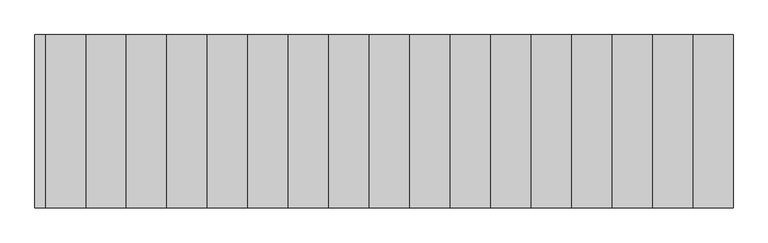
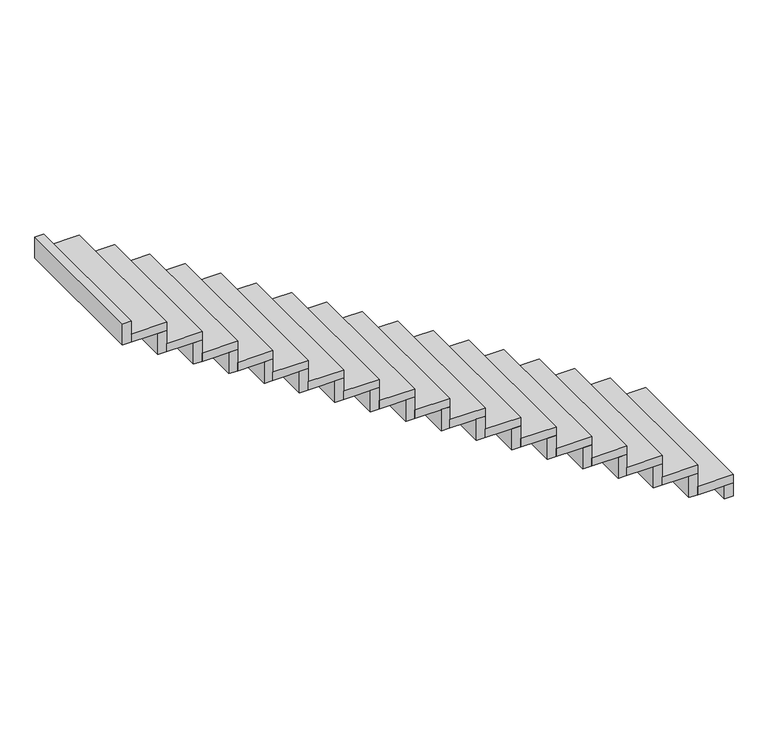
"""IFC4 building model written with IfcOpenShell, lengths in millimetres: stair flight geometry, PLISSADA 7CM."""

from ifc_helpers import new_model, si_unit, frame, origin, place, context, project, spatial, polyline, outline, extrude, source, transform, mapped, element, save


def stair_flight_5e0610f6(model_context):
    return source(origin(), model_context, "Body", "SweptSolid", [
        extrude(outline(polyline([(1348.4881645, 7546.0881727), (1418.4881645, 7546.0881727), (1418.4881645, 6346.0881727), (1348.4881645, 6346.0881727), (1348.4881645, 7546.0881727)])), frame((0.0, 0.0, 500.0), z_axis=(0.0, 0.0, 1.0), x_axis=(1.0, 0.0, 0.0)), (0.0, 0.0, 1.0), 107.7777778),
        extrude(outline(polyline([(1138.4881645, 6346.0881727), (1138.4881645, 7546.0881727), (1418.4881645, 7546.0881727), (1418.4881645, 6346.0881727), (1138.4881645, 6346.0881727)])), frame((0.0, 0.0, 607.7777778), z_axis=(0.0, 0.0, 1.0), x_axis=(1.0, 0.0, 0.0)), (0.0, 0.0, 1.0), 70.0),
        extrude(outline(polyline([(1068.4881645, 7546.0881727), (1138.4881645, 7546.0881727), (1138.4881645, 6346.0881727), (1068.4881645, 6346.0881727), (1068.4881645, 7546.0881727)])), frame((0.0, 0.0, 607.7777778), z_axis=(0.0, 0.0, 1.0), x_axis=(1.0, 0.0, 0.0)), (0.0, 0.0, 1.0), 177.7777778),
        extrude(outline(polyline([(858.4881645, 6346.0881727), (858.4881645, 7546.0881727), (1138.4881645, 7546.0881727), (1138.4881645, 6346.0881727), (858.4881645, 6346.0881727)])), frame((0.0, 0.0, 785.5555556), z_axis=(0.0, 0.0, 1.0), x_axis=(1.0, 0.0, 0.0)), (0.0, 0.0, 1.0), 70.0),
        extrude(outline(polyline([(788.4881645, 7546.0881727), (858.4881645, 7546.0881727), (858.4881645, 6346.0881727), (788.4881645, 6346.0881727), (788.4881645, 7546.0881727)])), frame((0.0, 0.0, 785.5555556), z_axis=(0.0, 0.0, 1.0), x_axis=(1.0, 0.0, 0.0)), (0.0, 0.0, 1.0), 177.7777778),
        extrude(outline(polyline([(578.4881645, 6346.0881727), (578.4881645, 7546.0881727), (858.4881645, 7546.0881727), (858.4881645, 6346.0881727), (578.4881645, 6346.0881727)])), frame((0.0, 0.0, 963.3333333), z_axis=(0.0, 0.0, 1.0), x_axis=(1.0, 0.0, 0.0)), (0.0, 0.0, 1.0), 70.0),
        extrude(outline(polyline([(508.4881645, 7546.0881727), (578.4881645, 7546.0881727), (578.4881645, 6346.0881727), (508.4881645, 6346.0881727), (508.4881645, 7546.0881727)])), frame((0.0, 0.0, 963.3333333), z_axis=(0.0, 0.0, 1.0), x_axis=(1.0, 0.0, 0.0)), (0.0, 0.0, 1.0), 177.7777778),
        extrude(outline(polyline([(298.4881645, 6346.0881727), (298.4881645, 7546.0881727), (578.4881645, 7546.0881727), (578.4881645, 6346.0881727), (298.4881645, 6346.0881727)])), frame((0.0, 0.0, 1141.1111111), z_axis=(0.0, 0.0, 1.0), x_axis=(1.0, 0.0, 0.0)), (0.0, 0.0, 1.0), 70.0),
        extrude(outline(polyline([(228.4881645, 7546.0881727), (298.4881645, 7546.0881727), (298.4881645, 6346.0881727), (228.4881645, 6346.0881727), (228.4881645, 7546.0881727)])), frame((0.0, 0.0, 1141.1111111), z_axis=(0.0, 0.0, 1.0), x_axis=(1.0, 0.0, 0.0)), (0.0, 0.0, 1.0), 177.7777778),
        extrude(outline(polyline([(18.4881645, 6346.0881727), (18.4881645, 7546.0881727), (298.4881645, 7546.0881727), (298.4881645, 6346.0881727), (18.4881645, 6346.0881727)])), frame((0.0, 0.0, 1318.8888889), z_axis=(0.0, 0.0, 1.0), x_axis=(1.0, 0.0, 0.0)), (0.0, 0.0, 1.0), 70.0),
        extrude(outline(polyline([(-51.5118355, 7546.0881727), (18.4881645, 7546.0881727), (18.4881645, 6346.0881727), (-51.5118355, 6346.0881727), (-51.5118355, 7546.0881727)])), frame((0.0, 0.0, 1318.8888889), z_axis=(0.0, 0.0, 1.0), x_axis=(1.0, 0.0, 0.0)), (0.0, 0.0, 1.0), 177.7777778),
        extrude(outline(polyline([(-261.5118355, 6346.0881727), (-261.5118355, 7546.0881727), (18.4881645, 7546.0881727), (18.4881645, 6346.0881727), (-261.5118355, 6346.0881727)])), frame((0.0, 0.0, 1496.6666667), z_axis=(0.0, 0.0, 1.0), x_axis=(1.0, 0.0, 0.0)), (0.0, 0.0, 1.0), 70.0),
        extrude(outline(polyline([(-331.5118355, 7546.0881727), (-261.5118355, 7546.0881727), (-261.5118355, 6346.0881727), (-331.5118355, 6346.0881727), (-331.5118355, 7546.0881727)])), frame((0.0, 0.0, 1496.6666667), z_axis=(0.0, 0.0, 1.0), x_axis=(1.0, 0.0, 0.0)), (0.0, 0.0, 1.0), 177.7777778),
        extrude(outline(polyline([(-541.5118355, 6346.0881727), (-541.5118355, 7546.0881727), (-261.5118355, 7546.0881727), (-261.5118355, 6346.0881727), (-541.5118355, 6346.0881727)])), frame((0.0, 0.0, 1674.4444444), z_axis=(0.0, 0.0, 1.0), x_axis=(1.0, 0.0, 0.0)), (0.0, 0.0, 1.0), 70.0),
        extrude(outline(polyline([(-611.5118355, 7546.0881727), (-541.5118355, 7546.0881727), (-541.5118355, 6346.0881727), (-611.5118355, 6346.0881727), (-611.5118355, 7546.0881727)])), frame((0.0, 0.0, 1674.4444444), z_axis=(0.0, 0.0, 1.0), x_axis=(1.0, 0.0, 0.0)), (0.0, 0.0, 1.0), 177.7777778),
        extrude(outline(polyline([(-821.5118355, 6346.0881727), (-821.5118355, 7546.0881727), (-541.5118355, 7546.0881727), (-541.5118355, 6346.0881727), (-821.5118355, 6346.0881727)])), frame((0.0, 0.0, 1852.2222222), z_axis=(0.0, 0.0, 1.0), x_axis=(1.0, 0.0, 0.0)), (0.0, 0.0, 1.0), 70.0),
        extrude(outline(polyline([(-891.5118355, 7546.0881727), (-821.5118355, 7546.0881727), (-821.5118355, 6346.0881727), (-891.5118355, 6346.0881727), (-891.5118355, 7546.0881727)])), frame((0.0, 0.0, 1852.2222222), z_axis=(0.0, 0.0, 1.0), x_axis=(1.0, 0.0, 0.0)), (0.0, 0.0, 1.0), 177.7777778),
        extrude(outline(polyline([(-1101.5118355, 6346.0881727), (-1101.5118355, 7546.0881727), (-821.5118355, 7546.0881727), (-821.5118355, 6346.0881727), (-1101.5118355, 6346.0881727)])), frame((0.0, 0.0, 2030.0), z_axis=(0.0, 0.0, 1.0), x_axis=(1.0, 0.0, 0.0)), (0.0, 0.0, 1.0), 70.0),
        extrude(outline(polyline([(-1171.5118355, 7546.0881727), (-1101.5118355, 7546.0881727), (-1101.5118355, 6346.0881727), (-1171.5118355, 6346.0881727), (-1171.5118355, 7546.0881727)])), frame((0.0, 0.0, 2030.0), z_axis=(0.0, 0.0, 1.0), x_axis=(1.0, 0.0, 0.0)), (0.0, 0.0, 1.0), 177.7777778),
        extrude(outline(polyline([(-1381.5118355, 6346.0881727), (-1381.5118355, 7546.0881727), (-1101.5118355, 7546.0881727), (-1101.5118355, 6346.0881727), (-1381.5118355, 6346.0881727)])), frame((0.0, 0.0, 2207.7777778), z_axis=(0.0, 0.0, 1.0), x_axis=(1.0, 0.0, 0.0)), (0.0, 0.0, 1.0), 70.0),
        extrude(outline(polyline([(-1451.5118355, 7546.0881727), (-1381.5118355, 7546.0881727), (-1381.5118355, 6346.0881727), (-1451.5118355, 6346.0881727), (-1451.5118355, 7546.0881727)])), frame((0.0, 0.0, 2207.7777778), z_axis=(0.0, 0.0, 1.0), x_axis=(1.0, 0.0, 0.0)), (0.0, 0.0, 1.0), 177.7777778),
        extrude(outline(polyline([(-1661.5118355, 6346.0881727), (-1661.5118355, 7546.0881727), (-1381.5118355, 7546.0881727), (-1381.5118355, 6346.0881727), (-1661.5118355, 6346.0881727)])), frame((0.0, 0.0, 2385.5555556), z_axis=(0.0, 0.0, 1.0), x_axis=(1.0, 0.0, 0.0)), (0.0, 0.0, 1.0), 70.0),
        extrude(outline(polyline([(-1731.5118355, 7546.0881727), (-1661.5118355, 7546.0881727), (-1661.5118355, 6346.0881727), (-1731.5118355, 6346.0881727), (-1731.5118355, 7546.0881727)])), frame((0.0, 0.0, 2385.5555556), z_axis=(0.0, 0.0, 1.0), x_axis=(1.0, 0.0, 0.0)), (0.0, 0.0, 1.0), 177.7777778),
        extrude(outline(polyline([(-1941.5118355, 6346.0881727), (-1941.5118355, 7546.0881727), (-1661.5118355, 7546.0881727), (-1661.5118355, 6346.0881727), (-1941.5118355, 6346.0881727)])), frame((0.0, 0.0, 2563.3333333), z_axis=(0.0, 0.0, 1.0), x_axis=(1.0, 0.0, 0.0)), (0.0, 0.0, 1.0), 70.0),
        extrude(outline(polyline([(-2011.5118355, 7546.0881727), (-1941.5118355, 7546.0881727), (-1941.5118355, 6346.0881727), (-2011.5118355, 6346.0881727), (-2011.5118355, 7546.0881727)])), frame((0.0, 0.0, 2563.3333333), z_axis=(0.0, 0.0, 1.0), x_axis=(1.0, 0.0, 0.0)), (0.0, 0.0, 1.0), 177.7777778),
        extrude(outline(polyline([(-2221.5118355, 6346.0881727), (-2221.5118355, 7546.0881727), (-1941.5118355, 7546.0881727), (-1941.5118355, 6346.0881727), (-2221.5118355, 6346.0881727)])), frame((0.0, 0.0, 2741.1111111), z_axis=(0.0, 0.0, 1.0), x_axis=(1.0, 0.0, 0.0)), (0.0, 0.0, 1.0), 70.0),
        extrude(outline(polyline([(-2291.5118355, 7546.0881727), (-2221.5118355, 7546.0881727), (-2221.5118355, 6346.0881727), (-2291.5118355, 6346.0881727), (-2291.5118355, 7546.0881727)])), frame((0.0, 0.0, 2741.1111111), z_axis=(0.0, 0.0, 1.0), x_axis=(1.0, 0.0, 0.0)), (0.0, 0.0, 1.0), 177.7777778),
        extrude(outline(polyline([(-2501.5118355, 6346.0881727), (-2501.5118355, 7546.0881727), (-2221.5118355, 7546.0881727), (-2221.5118355, 6346.0881727), (-2501.5118355, 6346.0881727)])), frame((0.0, 0.0, 2918.8888889), z_axis=(0.0, 0.0, 1.0), x_axis=(1.0, 0.0, 0.0)), (0.0, 0.0, 1.0), 70.0),
        extrude(outline(polyline([(-2571.5118355, 7546.0881727), (-2501.5118355, 7546.0881727), (-2501.5118355, 6346.0881727), (-2571.5118355, 6346.0881727), (-2571.5118355, 7546.0881727)])), frame((0.0, 0.0, 2918.8888889), z_axis=(0.0, 0.0, 1.0), x_axis=(1.0, 0.0, 0.0)), (0.0, 0.0, 1.0), 177.7777778),
        extrude(outline(polyline([(-2781.5118355, 6346.0881727), (-2781.5118355, 7546.0881727), (-2501.5118355, 7546.0881727), (-2501.5118355, 6346.0881727), (-2781.5118355, 6346.0881727)])), frame((0.0, 0.0, 3096.6666667), z_axis=(0.0, 0.0, 1.0), x_axis=(1.0, 0.0, 0.0)), (0.0, 0.0, 1.0), 70.0),
        extrude(outline(polyline([(-2851.5118355, 7546.0881727), (-2781.5118355, 7546.0881727), (-2781.5118355, 6346.0881727), (-2851.5118355, 6346.0881727), (-2851.5118355, 7546.0881727)])), frame((0.0, 0.0, 3096.6666667), z_axis=(0.0, 0.0, 1.0), x_axis=(1.0, 0.0, 0.0)), (0.0, 0.0, 1.0), 177.7777778),
        extrude(outline(polyline([(-3061.5118355, 6346.0881727), (-3061.5118355, 7546.0881727), (-2781.5118355, 7546.0881727), (-2781.5118355, 6346.0881727), (-3061.5118355, 6346.0881727)])), frame((0.0, 0.0, 3274.4444444), z_axis=(0.0, 0.0, 1.0), x_axis=(1.0, 0.0, 0.0)), (0.0, 0.0, 1.0), 70.0),
        extrude(outline(polyline([(-3131.5118355, 7546.0881727), (-3061.5118355, 7546.0881727), (-3061.5118355, 6346.0881727), (-3131.5118355, 6346.0881727), (-3131.5118355, 7546.0881727)])), frame((0.0, 0.0, 3274.4444444), z_axis=(0.0, 0.0, 1.0), x_axis=(1.0, 0.0, 0.0)), (0.0, 0.0, 1.0), 177.7777778),
        extrude(outline(polyline([(-3411.5118355, 7546.0881727), (-3341.5118355, 7546.0881727), (-3341.5118355, 6346.0881727), (-3411.5118355, 6346.0881727), (-3411.5118355, 7546.0881727)])), frame((0.0, 0.0, 3452.2222222), z_axis=(0.0, 0.0, 1.0), x_axis=(1.0, 0.0, 0.0)), (0.0, 0.0, 1.0), 177.7777778),
        extrude(outline(polyline([(-3341.5118355, 6346.0881727), (-3341.5118355, 7546.0881727), (-3061.5118355, 7546.0881727), (-3061.5118355, 6346.0881727), (-3341.5118355, 6346.0881727)])), frame((0.0, 0.0, 3452.2222222), z_axis=(0.0, 0.0, 1.0), x_axis=(1.0, 0.0, 0.0)), (0.0, 0.0, 1.0), 70.0),
    ])


if __name__ == "__main__":
    model = new_model("IFC4")
    model_context = context("Model", 3, world=origin())
    ifc_project = project(units=[si_unit("LENGTHUNIT", "METRE", prefix="MILLI")], contexts=[model_context])
    site = spatial("IfcSite", under=ifc_project)
    building = spatial("IfcBuilding", under=site)
    placement = place(None, origin())
    stair_flight_shape = stair_flight_5e0610f6(model_context)
    element("IfcStairFlight", 1, ObjectType="PLISSADA 7CM", at=placement, inside=building, context=model_context, shape_type="MappedRepresentation", body=[
        mapped(stair_flight_shape, transform((0.0, 0.0, 0.0), x_axis=(1.0, 0.0, 0.0), y_axis=(0.0, 1.0, 0.0), z_axis=(0.0, 0.0, 1.0))),
    ])
    save(model, "model.ifc")
